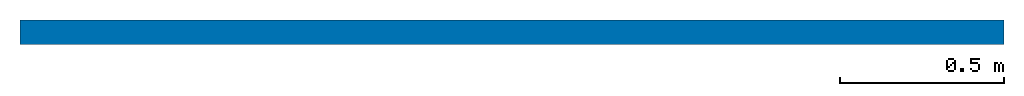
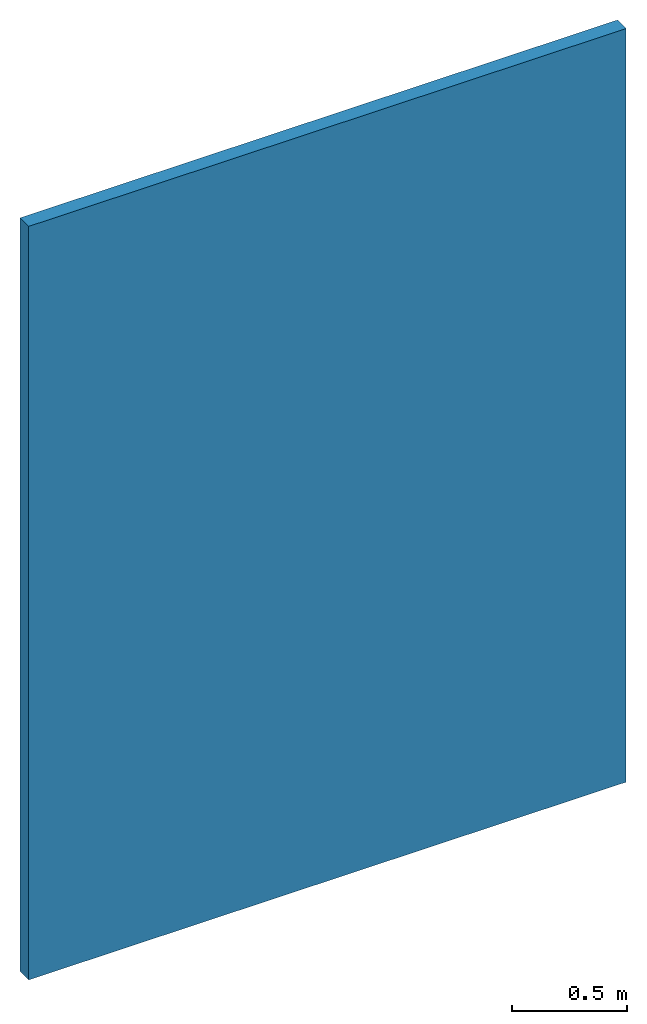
# One storey: 1 wall.
"""IFC2X3 building model written with IfcOpenShell, lengths in millimetres."""

from ifc_helpers import new_model, entity, si_unit, converted_unit, derived_unit, direction, frame, frame_2d, origin, place, context, subcontext, project, spatial, rectangle, extrude, material, layer, layer_set, layer_usage, type_object, element, save


model = new_model("IFC2X3")

# Units and contexts
model_context = context("Model", 3, precision=0.01, world=origin(), true_north=direction((6.12303176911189e-17, 1.0)))
body_context = subcontext(model_context, "Body", "Model", "MODEL_VIEW")
ifc_project = project(units=[si_unit("LENGTHUNIT", "METRE", prefix="MILLI"), si_unit("AREAUNIT", "SQUARE_METRE"), si_unit("VOLUMEUNIT", "CUBIC_METRE"), converted_unit("PLANEANGLEUNIT", "DEGREE", entity("IfcRatioMeasure", 0.0174532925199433), si_unit("PLANEANGLEUNIT", "RADIAN"), dimensions=[0, 0, 0, 0, 0, 0, 0]), si_unit("MASSUNIT", "GRAM", prefix="KILO"), si_unit("TIMEUNIT", "SECOND"), si_unit("FREQUENCYUNIT", "HERTZ"), si_unit("THERMODYNAMICTEMPERATUREUNIT", "DEGREE_CELSIUS"), derived_unit("THERMALTRANSMITTANCEUNIT", [(si_unit("MASSUNIT", "GRAM", prefix="KILO"), 1), (si_unit("THERMODYNAMICTEMPERATUREUNIT", "KELVIN"), -1), (si_unit("TIMEUNIT", "SECOND"), -3)]), derived_unit("VOLUMETRICFLOWRATEUNIT", [(si_unit("LENGTHUNIT", "METRE"), 3), (si_unit("TIMEUNIT", "SECOND"), -1)]), si_unit("ELECTRICCURRENTUNIT", "AMPERE"), si_unit("ELECTRICVOLTAGEUNIT", "VOLT"), si_unit("POWERUNIT", "WATT"), si_unit("FORCEUNIT", "NEWTON", prefix="KILO"), si_unit("ILLUMINANCEUNIT", "LUX"), si_unit("LUMINOUSFLUXUNIT", "LUMEN"), si_unit("LUMINOUSINTENSITYUNIT", "CANDELA"), derived_unit("USERDEFINED", [(si_unit("MASSUNIT", "GRAM", prefix="KILO"), -1), (si_unit("LENGTHUNIT", "METRE"), -2), (si_unit("TIMEUNIT", "SECOND"), 3), (si_unit("LUMINOUSFLUXUNIT", "LUMEN"), 1)]), derived_unit("LINEARVELOCITYUNIT", [(si_unit("LENGTHUNIT", "METRE"), 1), (si_unit("TIMEUNIT", "SECOND"), -1)]), si_unit("PRESSUREUNIT", "PASCAL"), derived_unit("USERDEFINED", [(si_unit("LENGTHUNIT", "METRE"), -2), (si_unit("MASSUNIT", "GRAM", prefix="KILO"), 1), (si_unit("TIMEUNIT", "SECOND"), -2)])], contexts=[model_context])

# Site, building, storey
site_placement = place(None, origin())
site = spatial("IfcSite", under=ifc_project, at=site_placement, Name="Default", CompositionType="ELEMENT")
building_placement = place(site_placement, origin())
building = spatial("IfcBuilding", under=site, at=building_placement, CompositionType="ELEMENT")
storey_placement = place(building_placement, origin())
storey = spatial("IfcBuildingStorey", under=building, at=storey_placement, Name="Уровень 1", CompositionType="ELEMENT", Elevation=0.0)

# Wall
ifc_material_1 = material(Name="КНАУФ-Акустика")
ifc_layer_1 = layer(ifc_material_1, 12.5)
ifc_material_2 = material(Name="КНАУФ-лист")
ifc_layer_2 = layer(ifc_material_2, 12.5)
ifc_material_3 = material(Name="Luft")
ifc_layer_3 = layer(ifc_material_3, 10.0)
ifc_material_4 = material(Name="КНАУФ-профиль+мин.вата 20@600mm")
ifc_layer_4 = layer(ifc_material_4, 40.0)
ifc_layer_set = layer_set([ifc_layer_1, ifc_layer_2, ifc_layer_3, ifc_layer_4], Name="Базовая стена:Облицовка КНАУФ С 623C Применение внутри здания ПП60/27 ПН28х27 ГСП-А 12.5 Акустика 12.5")
ifc_layer_usage = layer_usage(ifc_layer_set, "AXIS2", "NEGATIVE", 37.5)
wall_type = type_object("IfcWallType", Name="Базовая стена:Облицовка КНАУФ С 623C Применение внутри здания ПП60/27 ПН28х27 ГСП-А 12.5 Акустика 12.5", PredefinedType="STANDARD", material=ifc_layer_set)
wall_placement = place(storey_placement, frame((5.71421233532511, -1079.5800597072, 0.0)))
element("IfcWallStandardCase", 1, at=wall_placement, inside=storey, type_object=wall_type, material=ifc_layer_usage, Name="Базовая стена:Облицовка КНАУФ С 623C Применение внутри здания ПП60/27 ПН28х27 ГСП-А 12.5 Акустика 12.5", ObjectType="Базовая стена:Облицовка КНАУФ С 623C Применение внутри здания ПП60/27 ПН28х27 ГСП-А 12.5 Акустика 12.5", context=body_context, shape_type="SweptSolid", body=[
    extrude(rectangle(XDim=3000.0, YDim=75.0, at=frame_2d((1500.0, -3.5527136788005e-14), x_axis=(-1.0, 0.0))), origin(), (0.0, 0.0, 1.0), 4000.0),
])

save(model, "model.ifc")
